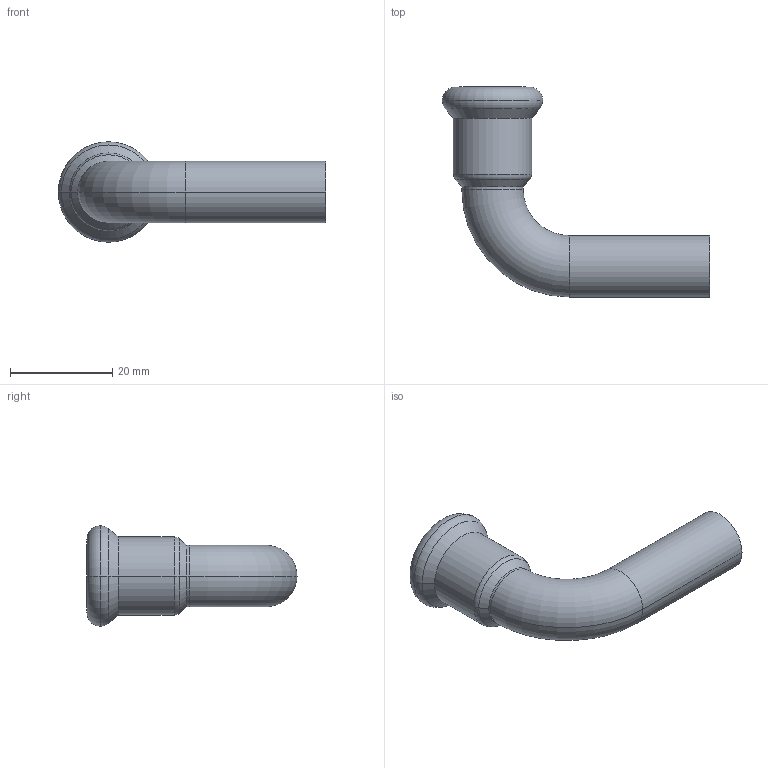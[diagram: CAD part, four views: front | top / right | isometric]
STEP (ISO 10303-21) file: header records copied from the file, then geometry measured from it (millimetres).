
FILE_DESCRIPTION(('CoCreate Modeling STEP Export'),'2;1');
FILE_NAME('C1411 12x12.stp','2014-11-07T16:51:18',(''),(''),'CoCreate Modeling STEP processor for AP214 (Solid Model)','CoCreate Modeling 17.00A 17-Jun-2010 (C) Parametric Technology GmbH','');
FILE_SCHEMA(('AUTOMOTIVE_DESIGN { 1 0 10303 214 1 1 1 1 }'));
Length unit declared in the file: millimetre
Products named in the file (2): C1411_12x12
Assembly tree (1 placements, depth 2):
  C1411_12x12
    C1411_12x12
Bounding box: 52.2 x 41 x 19.6 mm (x, y, z)
Volume: 3878.4 mm3; surface area: 5509.7 mm2
Topology: 1 solids, 1 shells, 32 faces, 69 edges, 41 vertices
Faces by surface type: cylinder 14, torus 10, plane 4, cone 4
Entity records: 753 total; most frequent: ORIENTED_EDGE 138, DIRECTION 116, CARTESIAN_POINT 108, EDGE_CURVE 69, AXIS2_PLACEMENT_3D 49, VERTEX_POINT 41, EDGE_LOOP 36, FACE_OUTER_BOUND 32
